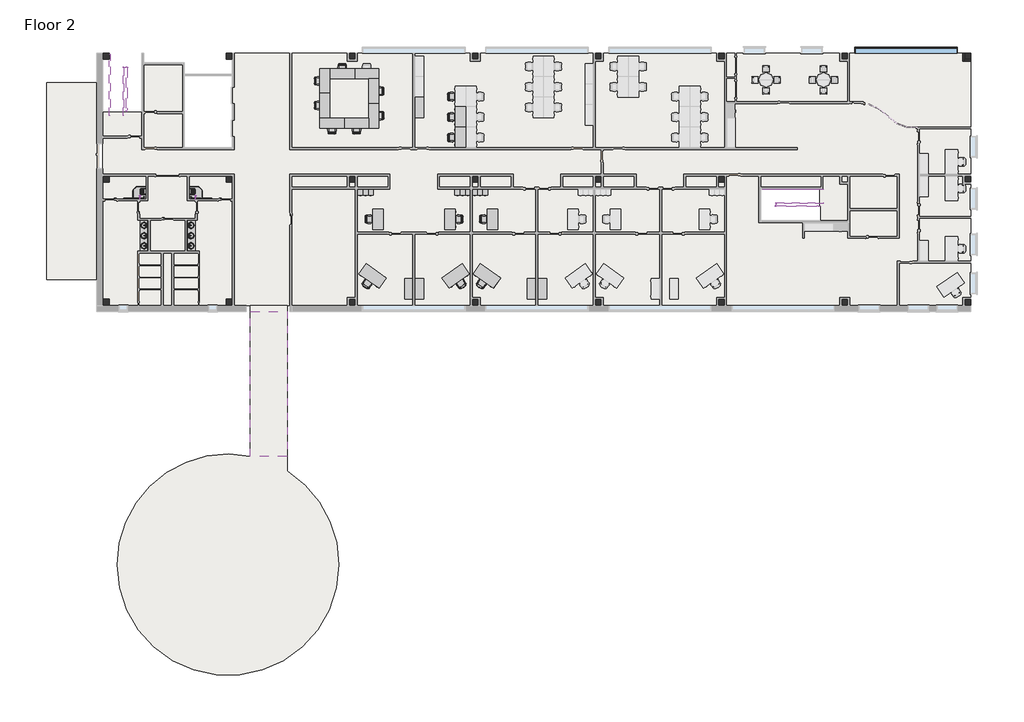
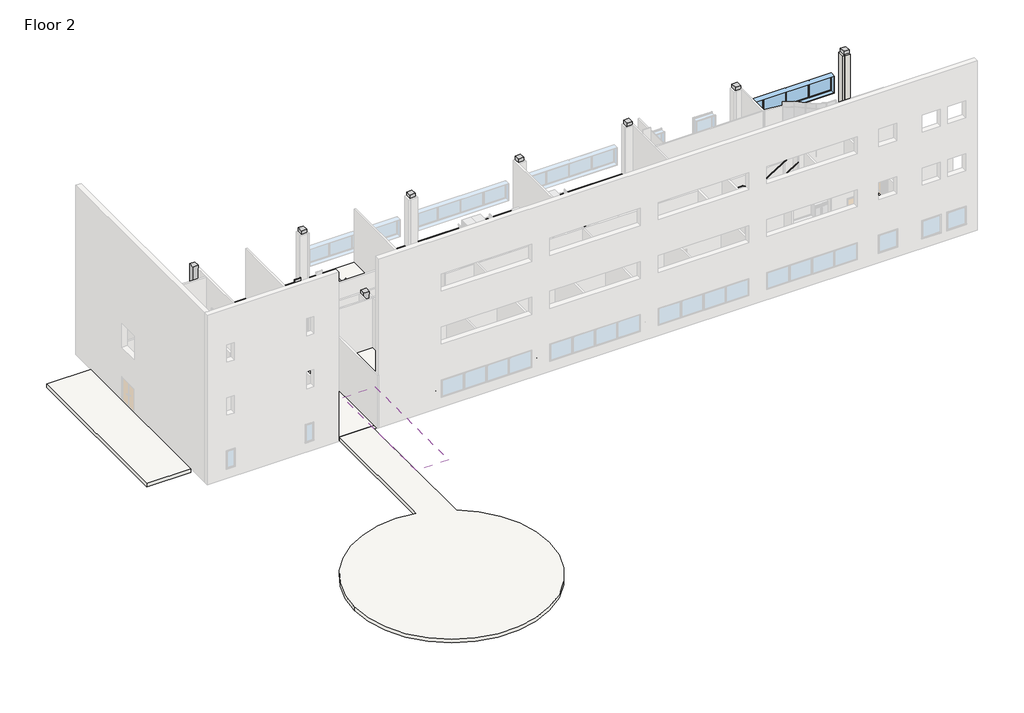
# One storey, part 5 of 6: 48 furniture elements, 23 columns, 16 flow terminals, 4 railings, 3 slabs, 2 walls, 1 covering, 1 window.
"""IFC4 building model written with IfcOpenShell, lengths in millimetres."""

from ifc_helpers import new_model, si_unit, point, frame, frame_2d, origin, place, context, project, spatial, polyline, circle_curve, trimmed, segment, composite_curve, outline, extrude, faceted_brep, transform, mapped, element, save
from components import column_f6efb254, grab_rail_horizontal_grab_bar_horizontal_3488bc9b, grab_rail_horizontal_grab_bar_horizontal_f73a8c0c, shower_head_shower_head_b2a460ee, shower_head_shower_head_3f4786c7, shower_seat_e35f25db, shower_seat_bb0cd458, shower_tray_2_floor_shower_tray_997da0d4, shower_tray_2_floor_shower_tray_7a1f724c, sink_vanity_round_basin_6ecf7a68, furniture_552c1472, furniture_48aa8ab9, chair_executive_chair_executive_8d69e98c, chair_executive_chair_executive_a5be4872, chair_task_arms_chair_task_arms_fa5a08ef, chair_task_arms_chair_task_arms_3c69ee15, furniture_0f0bb7e9, furniture_a9e97cbc, furniture_f1eb905c, furniture_e30ff25b, furniture_33f25304, furniture_65204735, plumbing_fixtures_counter_top_w_sinks_2400x600x850mm_820859b4, furniture_a5b052b6, stair_railing_1_d4a7e100, stair_railing_1_835fd4d1, stair_railing_1_a30edcdb, stair_railing_1_ea28da98, window_casement_multi_sash_horizontal_25_x_5ft_0e5d08e3

model = new_model("IFC4")

# Units and contexts
model_context = context("Model", 3, world=origin())
ifc_project = project(units=[si_unit("LENGTHUNIT", "METRE", prefix="MILLI")], contexts=[model_context])

# Site, building, storey
site = spatial("IfcSite", under=ifc_project)
building = spatial("IfcBuilding", under=site)
storey = spatial("IfcBuildingStorey", under=building, Name="Floor 2", Elevation=5486.4)

# Columns
placement = place(None, origin())
element("IfcColumn", 1, ObjectType="Rectangular Column1 : 18\" x 18\"", at=placement, inside=storey, context=model_context, shape_type="SweptSolid", body=[
    extrude(outline(polyline([(6637.3692024, 39077.111889), (6637.3692024, 38619.911889), (6180.1692024, 38619.911889), (6180.1692024, 39077.111889), (6637.3692024, 39077.111889)])), frame((0.0, 0.0, 5486.4), z_axis=(0.0, 0.0, 1.0), x_axis=(1.0, 0.0, 0.0)), (0.0, 0.0, 1.0), 4724.4),
])
element("IfcColumn", 2, ObjectType="Rectangular Column1 : 18\" x 18\"", at=placement, inside=storey, context=model_context, shape_type="Brep", body=[
    faceted_brep([(15781.3692024, 39077.111889, 10210.8), (15324.1692024, 39077.111889, 10210.8), (15324.1692024, 38619.911889, 10210.8), (15781.3692024, 38619.911889, 10210.8), (15781.3692024, 39077.111889, 5486.4), (15781.3692024, 38619.911889, 5486.4), (15324.1692024, 38619.911889, 5486.4), (15324.1692024, 39077.111889, 5486.4), (15781.3692024, 39077.111889, 9906.0), (15324.1692024, 39077.111889, 9906.0)], [[[0, 1, 2, 3]], [[4, 5, 6, 7]], [[1, 0, 8, 4, 7, 9]], [[2, 1, 9, 7, 6]], [[3, 2, 6, 5]], [[0, 3, 5, 4, 8]]]),
])
element("IfcColumn", 3, ObjectType="Rectangular Column1 : 18\" x 18\"", at=placement, inside=storey, context=model_context, shape_type="Brep", body=[
    faceted_brep([(24925.3692024, 39077.111889, 10210.8), (24468.1692024, 39077.111889, 10210.8), (24468.1692024, 38619.911889, 10210.8), (24925.3692024, 38619.911889, 10210.8), (24925.3692024, 39077.111889, 5486.4), (24925.3692024, 38619.911889, 5486.4), (24468.1692024, 38619.911889, 5486.4), (24468.1692024, 39077.111889, 5486.4), (24925.3692024, 39077.111889, 9906.0), (24468.1692024, 39077.111889, 9906.0)], [[[0, 1, 2, 3]], [[4, 5, 6, 7]], [[1, 0, 8, 4, 7, 9]], [[2, 1, 9, 7, 6]], [[3, 2, 6, 5]], [[0, 3, 5, 4, 8]]]),
])
element("IfcColumn", 4, ObjectType="Rectangular Column1 : 18\" x 18\"", at=placement, inside=storey, context=model_context, shape_type="Brep", body=[
    faceted_brep([(34069.3692024, 39077.111889, 10210.8), (33612.1692024, 39077.111889, 10210.8), (33612.1692024, 38619.911889, 10210.8), (34069.3692024, 38619.911889, 10210.8), (34069.3692024, 39077.111889, 5486.4), (34069.3692024, 38619.911889, 5486.4), (33612.1692024, 38619.911889, 5486.4), (33612.1692024, 39077.111889, 5486.4), (34069.3692024, 39077.111889, 9906.0), (33612.1692024, 39077.111889, 9906.0)], [[[0, 1, 2, 3]], [[4, 5, 6, 7]], [[1, 0, 8, 4, 7, 9]], [[2, 1, 9, 7, 6]], [[3, 2, 6, 5]], [[0, 3, 5, 4, 8]]]),
])
element("IfcColumn", 5, ObjectType="Rectangular Column1 : 18\" x 18\"", at=placement, inside=storey, context=model_context, shape_type="Brep", body=[
    faceted_brep([(43213.3692024, 39077.111889, 10210.8), (42756.1692024, 39077.111889, 10210.8), (42756.1692024, 38619.911889, 10210.8), (43213.3692024, 38619.911889, 10210.8), (43213.3692024, 39077.111889, 5486.4), (43213.3692024, 38619.911889, 5486.4), (42756.1692024, 38619.911889, 5486.4), (42756.1692024, 39077.111889, 5486.4), (43213.3692024, 39077.111889, 9906.0), (42756.1692024, 39077.111889, 9906.0)], [[[0, 1, 2, 3]], [[4, 5, 6, 7]], [[1, 0, 8, 4, 7, 9]], [[2, 1, 9, 7, 6]], [[3, 2, 6, 5]], [[0, 3, 5, 4, 8]]]),
])
element("IfcColumn", 6, ObjectType="Rectangular Column1 : 18\" x 18\"", at=placement, inside=storey, context=model_context, shape_type="Brep", body=[
    faceted_brep([(52357.3692024, 39077.111889, 10210.8), (51900.1692024, 39077.111889, 10210.8), (51900.1692024, 38619.911889, 10210.8), (52357.3692024, 38619.911889, 10210.8), (52357.3692024, 39077.111889, 5486.4), (52357.3692024, 38619.911889, 5486.4), (51900.1692024, 38619.911889, 5486.4), (51900.1692024, 39077.111889, 5486.4), (52357.3692024, 39077.111889, 9906.0), (51900.1692024, 39077.111889, 9906.0)], [[[0, 1, 2, 3]], [[4, 5, 6, 7]], [[1, 0, 8, 4, 7, 9]], [[2, 1, 9, 7, 6]], [[3, 2, 6, 5]], [[0, 3, 5, 4, 8]]]),
])
element("IfcColumn", 7, ObjectType="Rectangular Column1 : 18\" x 18\"", at=placement, inside=storey, context=model_context, shape_type="Brep", body=[
    faceted_brep([(61501.3692024, 39077.111889, 10210.8), (61044.1692024, 39077.111889, 10210.8), (61044.1692024, 38619.911889, 10210.8), (61501.3692024, 38619.911889, 10210.8), (61501.3692024, 39077.111889, 5486.4), (61501.3692024, 38619.911889, 5486.4), (61044.1692024, 38619.911889, 5486.4), (61044.1692024, 39077.111889, 5486.4), (61044.1692024, 39077.111889, 9906.0)], [[[0, 1, 2, 3]], [[4, 5, 6, 7]], [[1, 0, 4, 7, 8]], [[2, 1, 8, 7, 6]], [[3, 2, 6, 5]], [[0, 3, 5, 4]]]),
])
element("IfcColumn", 8, ObjectType="Rectangular Column1 : 18\" x 18\"", at=placement, inside=storey, context=model_context, shape_type="SweptSolid", body=[
    extrude(outline(polyline([(-2506.6307976, 48221.111889), (-2506.6307976, 47763.911889), (-2963.8307976, 47763.911889), (-2963.8307976, 48221.111889), (-2506.6307976, 48221.111889)])), frame((0.0, 0.0, 5486.4), z_axis=(0.0, 0.0, 1.0), x_axis=(1.0, 0.0, 0.0)), (0.0, 0.0, 1.0), 4724.4),
])
element("IfcColumn", 9, ObjectType="Rectangular Column1 : 18\" x 18\"", at=placement, inside=storey, context=model_context, shape_type="SweptSolid", body=[
    extrude(outline(polyline([(6637.3692024, 48221.111889), (6637.3692024, 47763.911889), (6180.1692024, 47763.911889), (6180.1692024, 48221.111889), (6637.3692024, 48221.111889)])), frame((0.0, 0.0, 5486.4), z_axis=(0.0, 0.0, 1.0), x_axis=(1.0, 0.0, 0.0)), (0.0, 0.0, 1.0), 4724.4),
])
element("IfcColumn", 10, ObjectType="Rectangular Column1 : 18\" x 18\"", at=placement, inside=storey, context=model_context, shape_type="Brep", body=[
    faceted_brep([(15781.3692024, 48221.111889, 10210.8), (15324.1692024, 48221.111889, 10210.8), (15324.1692024, 47763.911889, 10210.8), (15781.3692024, 47763.911889, 10210.8), (15781.3692024, 48221.111889, 5486.4), (15781.3692024, 47763.911889, 5486.4), (15324.1692024, 47763.911889, 5486.4), (15324.1692024, 48221.111889, 5486.4), (15781.3692024, 48221.111889, 9906.0), (15324.1692024, 48221.111889, 9906.0)], [[[0, 1, 2, 3]], [[4, 5, 6, 7]], [[1, 0, 8, 4, 7, 9]], [[2, 1, 9, 7, 6]], [[3, 2, 6, 5]], [[0, 3, 5, 4, 8]]]),
])
element("IfcColumn", 11, ObjectType="Rectangular Column1 : 18\" x 18\"", at=placement, inside=storey, context=model_context, shape_type="Brep", body=[
    faceted_brep([(24925.3692024, 48221.111889, 10210.8), (24468.1692024, 48221.111889, 10210.8), (24468.1692024, 47763.911889, 10210.8), (24925.3692024, 47763.911889, 10210.8), (24925.3692024, 48221.111889, 5486.4), (24925.3692024, 47763.911889, 5486.4), (24468.1692024, 47763.911889, 5486.4), (24468.1692024, 48221.111889, 5486.4), (24925.3692024, 48221.111889, 9906.0), (24468.1692024, 48221.111889, 9906.0)], [[[0, 1, 2, 3]], [[4, 5, 6, 7]], [[1, 0, 8, 4, 7, 9]], [[2, 1, 9, 7, 6]], [[3, 2, 6, 5]], [[0, 3, 5, 4, 8]]]),
])
element("IfcColumn", 12, ObjectType="Rectangular Column1 : 18\" x 18\"", at=placement, inside=storey, context=model_context, shape_type="Brep", body=[
    faceted_brep([(34069.3692024, 48221.111889, 10210.8), (33612.1692024, 48221.111889, 10210.8), (33612.1692024, 47763.911889, 10210.8), (34069.3692024, 47763.911889, 10210.8), (34069.3692024, 48221.111889, 5486.4), (34069.3692024, 47763.911889, 5486.4), (33612.1692024, 47763.911889, 5486.4), (33612.1692024, 48221.111889, 5486.4), (34069.3692024, 48221.111889, 9906.0), (33612.1692024, 48221.111889, 9906.0)], [[[0, 1, 2, 3]], [[4, 5, 6, 7]], [[1, 0, 8, 4, 7, 9]], [[2, 1, 9, 7, 6]], [[3, 2, 6, 5]], [[0, 3, 5, 4, 8]]]),
])
element("IfcColumn", 13, ObjectType="Rectangular Column1 : 18\" x 18\"", at=placement, inside=storey, context=model_context, shape_type="Brep", body=[
    faceted_brep([(43213.3692024, 48221.111889, 10210.8), (42756.1692024, 48221.111889, 10210.8), (42756.1692024, 47763.911889, 10210.8), (43213.3692024, 47763.911889, 10210.8), (43213.3692024, 48221.111889, 5486.4), (43213.3692024, 47763.911889, 5486.4), (42756.1692024, 47763.911889, 5486.4), (42756.1692024, 48221.111889, 5486.4), (43213.3692024, 48221.111889, 9906.0), (42756.1692024, 48221.111889, 9906.0)], [[[0, 1, 2, 3]], [[4, 5, 6, 7]], [[1, 0, 8, 4, 7, 9]], [[2, 1, 9, 7, 6]], [[3, 2, 6, 5]], [[0, 3, 5, 4, 8]]]),
])
element("IfcColumn", 14, ObjectType="Rectangular Column1 : 18\" x 18\"", at=placement, inside=storey, context=model_context, shape_type="Brep", body=[
    faceted_brep([(61501.3692024, 48221.111889, 10210.8), (61044.1692024, 48221.111889, 10210.8), (61044.1692024, 47763.911889, 10210.8), (61501.3692024, 47763.911889, 10210.8), (61501.3692024, 48221.111889, 5486.4), (61501.3692024, 47763.911889, 5486.4), (61044.1692024, 47763.911889, 5486.4), (61044.1692024, 48221.111889, 5486.4), (61044.1692024, 48221.111889, 9906.0), (61044.1692024, 47763.911889, 9906.0)], [[[0, 1, 2, 3]], [[4, 5, 6, 7]], [[1, 0, 4, 7, 8]], [[2, 1, 8, 7, 6, 9]], [[3, 2, 9, 6, 5]], [[0, 3, 5, 4]]]),
])
element("IfcColumn", 15, ObjectType="Rectangular Column1 : 18\" x 18\"", at=placement, inside=storey, context=model_context, shape_type="SweptSolid", body=[
    extrude(outline(polyline([(6637.3692024, 57365.111889), (6637.3692024, 56907.911889), (6180.1692024, 56907.911889), (6180.1692024, 57365.111889), (6637.3692024, 57365.111889)])), frame((0.0, 0.0, 5486.4), z_axis=(0.0, 0.0, 1.0), x_axis=(1.0, 0.0, 0.0)), (0.0, 0.0, 1.0), 4724.4),
])
element("IfcColumn", 16, ObjectType="Rectangular Column1 : 18\" x 18\"", at=placement, inside=storey, context=model_context, shape_type="Brep", body=[
    faceted_brep([(15781.3692024, 57365.111889, 10210.8), (15324.1692024, 57365.111889, 10210.8), (15324.1692024, 56907.911889, 10210.8), (15781.3692024, 56907.911889, 10210.8), (15781.3692024, 57365.111889, 5486.4), (15781.3692024, 56907.911889, 5486.4), (15324.1692024, 56907.911889, 5486.4), (15324.1692024, 57365.111889, 5486.4), (15324.1692024, 56907.911889, 9906.0), (15781.3692024, 56907.911889, 9906.0)], [[[0, 1, 2, 3]], [[4, 5, 6, 7]], [[1, 0, 4, 7]], [[2, 1, 7, 6, 8]], [[3, 2, 8, 6, 5, 9]], [[0, 3, 9, 5, 4]]]),
])
element("IfcColumn", 17, ObjectType="Rectangular Column1 : 18\" x 18\"", at=placement, inside=storey, context=model_context, shape_type="Brep", body=[
    faceted_brep([(24925.3692024, 57365.111889, 10210.8), (24468.1692024, 57365.111889, 10210.8), (24468.1692024, 56907.911889, 10210.8), (24925.3692024, 56907.911889, 10210.8), (24925.3692024, 57365.111889, 5486.4), (24925.3692024, 56907.911889, 5486.4), (24468.1692024, 56907.911889, 5486.4), (24468.1692024, 57365.111889, 5486.4), (24468.1692024, 56907.911889, 9906.0), (24925.3692024, 56907.911889, 9906.0)], [[[0, 1, 2, 3]], [[4, 5, 6, 7]], [[1, 0, 4, 7]], [[2, 1, 7, 6, 8]], [[3, 2, 8, 6, 5, 9]], [[0, 3, 9, 5, 4]]]),
])
element("IfcColumn", 18, ObjectType="Rectangular Column1 : 18\" x 18\"", at=placement, inside=storey, context=model_context, shape_type="Brep", body=[
    faceted_brep([(34069.3692024, 57365.111889, 10210.8), (33612.1692024, 57365.111889, 10210.8), (33612.1692024, 56907.911889, 10210.8), (34069.3692024, 56907.911889, 10210.8), (34069.3692024, 57365.111889, 5486.4), (34069.3692024, 56907.911889, 5486.4), (33612.1692024, 56907.911889, 5486.4), (33612.1692024, 57365.111889, 5486.4), (33612.1692024, 56907.911889, 9906.0), (34069.3692024, 56907.911889, 9906.0)], [[[0, 1, 2, 3]], [[4, 5, 6, 7]], [[1, 0, 4, 7]], [[2, 1, 7, 6, 8]], [[3, 2, 8, 6, 5, 9]], [[0, 3, 9, 5, 4]]]),
])
element("IfcColumn", 19, ObjectType="Rectangular Column1 : 18\" x 18\"", at=placement, inside=storey, context=model_context, shape_type="Brep", body=[
    faceted_brep([(43213.3692024, 57365.111889, 10210.8), (42756.1692024, 57365.111889, 10210.8), (42756.1692024, 56907.911889, 10210.8), (43213.3692024, 56907.911889, 10210.8), (43213.3692024, 57365.111889, 5486.4), (43213.3692024, 56907.911889, 5486.4), (42756.1692024, 56907.911889, 5486.4), (42756.1692024, 57365.111889, 5486.4), (42756.1692024, 56907.911889, 9906.0), (43213.3692024, 56907.911889, 9906.0)], [[[0, 1, 2, 3]], [[4, 5, 6, 7]], [[1, 0, 4, 7]], [[2, 1, 7, 6, 8]], [[3, 2, 8, 6, 5, 9]], [[0, 3, 9, 5, 4]]]),
])
element("IfcColumn", 20, ObjectType="Rectangular Column1 : 18\" x 18\"", at=placement, inside=storey, context=model_context, shape_type="Brep", body=[
    faceted_brep([(52357.3692024, 57365.111889, 10210.8), (51900.1692024, 57365.111889, 10210.8), (51900.1692024, 56907.911889, 10210.8), (52357.3692024, 56907.911889, 10210.8), (52357.3692024, 57365.111889, 5486.4), (52357.3692024, 56907.911889, 5486.4), (51900.1692024, 56907.911889, 5486.4), (51900.1692024, 57365.111889, 5486.4), (51900.1692024, 56907.911889, 9906.0)], [[[0, 1, 2, 3]], [[4, 5, 6, 7]], [[1, 0, 4, 7]], [[2, 1, 7, 6, 8]], [[3, 2, 8, 6, 5]], [[0, 3, 5, 4]]]),
])
element("IfcColumn", 21, ObjectType="Rectangular Column1 : 18\" x 18\"", at=placement, inside=storey, context=model_context, shape_type="Brep", body=[
    faceted_brep([(61501.3692024, 57365.111889, 10210.8), (61044.1692024, 57365.111889, 10210.8), (61044.1692024, 56907.911889, 10210.8), (61501.3692024, 56907.911889, 10210.8), (61501.3692024, 57365.111889, 5486.4), (61501.3692024, 56907.911889, 5486.4), (61044.1692024, 56907.911889, 5486.4), (61044.1692024, 57365.111889, 5486.4), (61044.1692024, 56907.911889, 9906.0)], [[[0, 1, 2, 3]], [[4, 5, 6, 7]], [[1, 0, 4, 7]], [[2, 1, 7, 6, 8]], [[3, 2, 8, 6, 5]], [[0, 3, 5, 4]]]),
])
column_shape = column_f6efb254(model_context)
element("IfcColumn", 22, ObjectType="Rectangular Column1 : 18\" x 18\"", at=placement, inside=storey, context=model_context, shape_type="MappedRepresentation", body=[
    mapped(column_shape, transform((-2735.2307976, 38848.511889, 0.0), x_axis=(1.0, 0.0, 0.0), y_axis=(0.0, 1.0, 0.0), z_axis=(0.0, 0.0, 1.0))),
])
element("IfcColumn", 23, ObjectType="Rectangular Column1 : 18\" x 18\"", at=placement, inside=storey, context=model_context, shape_type="MappedRepresentation", body=[
    mapped(column_shape, transform((-2735.2307976, 57136.511889, 0.0), x_axis=(1.0, 0.0, 0.0), y_axis=(0.0, 1.0, 0.0), z_axis=(0.0, 0.0, 1.0))),
])

# Covering
element("IfcCovering", 24, ObjectType="2' x 2' ACT System", at=placement, inside=storey, context=model_context, shape_type="SweptSolid", body=[
    extrude(outline(polyline([(7986.4026119, 38164.299389), (10723.2526119, 38164.299389), (10723.2526119, 27403.0208402), (7986.4026119, 27403.0208402), (7986.4026119, 38164.299389)])), frame((0.0, 0.0, 9296.4), z_axis=(0.0, 0.0, 1.0), x_axis=(1.0, 0.0, 0.0)), (0.0, 0.0, 1.0), 57.15),
])

# Flow terminals
grab_rail_horizontal_grab_bar_horizontal_shape = grab_rail_horizontal_grab_bar_horizontal_3488bc9b(model_context)
element("IfcFlowTerminal", 25, ObjectType="Grab Rail - Horizontal : Grab Bar Horizontal", at=placement, inside=storey, context=model_context, shape_type="MappedRepresentation", body=[
    mapped(grab_rail_horizontal_grab_bar_horizontal_shape, transform((3129.9735359, 46520.961889, 5486.4), x_axis=(-1.0, 0.0, 0.0), y_axis=(0.0, -1.0, 0.0), z_axis=(0.0, 0.0, 1.0))),
])
element("IfcFlowTerminal", 26, ObjectType="Grab Rail - Horizontal : Grab Bar Horizontal", at=placement, inside=storey, context=model_context, shape_type="MappedRepresentation", body=[
    mapped(grab_rail_horizontal_grab_bar_horizontal_shape, transform((3939.9735359, 46520.961889, 5486.4), x_axis=(-1.0, 0.0, 0.0), y_axis=(0.0, -1.0, 0.0), z_axis=(0.0, 0.0, 1.0))),
])
grab_rail_horizontal_grab_bar_horizontal_2_shape = grab_rail_horizontal_grab_bar_horizontal_f73a8c0c(model_context)
element("IfcFlowTerminal", 27, ObjectType="Grab Rail - Horizontal : Grab Bar Horizontal", at=placement, inside=storey, context=model_context, shape_type="MappedRepresentation", body=[
    mapped(grab_rail_horizontal_grab_bar_horizontal_2_shape, transform((543.5648689, 46520.961889, 5486.4), x_axis=(1.0, 0.0, 0.0), y_axis=(0.0, 1.0, 0.0), z_axis=(0.0, 0.0, 1.0))),
])
element("IfcFlowTerminal", 28, ObjectType="Grab Rail - Horizontal : Grab Bar Horizontal", at=placement, inside=storey, context=model_context, shape_type="MappedRepresentation", body=[
    mapped(grab_rail_horizontal_grab_bar_horizontal_2_shape, transform((-266.4351311, 46520.961889, 5486.4), x_axis=(1.0, 0.0, 0.0), y_axis=(0.0, 1.0, 0.0), z_axis=(0.0, 0.0, 1.0))),
])
shower_head_shower_head_shape = shower_head_shower_head_b2a460ee(model_context)
element("IfcFlowTerminal", 29, ObjectType="Shower Head : Shower Head", at=placement, inside=storey, context=model_context, shape_type="MappedRepresentation", body=[
    mapped(shower_head_shower_head_shape, transform((-227.2307976, 46520.961889, 5486.4), x_axis=(1.0, 0.0, 0.0), y_axis=(0.0, 1.0, 0.0), z_axis=(0.0, 0.0, 1.0))),
])
shower_head_shower_head_2_shape = shower_head_shower_head_3f4786c7(model_context)
element("IfcFlowTerminal", 30, ObjectType="Shower Head : Shower Head", at=placement, inside=storey, context=model_context, shape_type="MappedRepresentation", body=[
    mapped(shower_head_shower_head_2_shape, transform((3900.7692024, 46520.961889, 5486.4), x_axis=(-1.0, 0.0, 0.0), y_axis=(0.0, -1.0, 0.0), z_axis=(0.0, 0.0, 1.0))),
])
shower_seat_shape = shower_seat_e35f25db(model_context)
element("IfcFlowTerminal", 31, ObjectType="Shower - Disabled  Seat : Shower Seat", at=placement, inside=storey, context=model_context, shape_type="MappedRepresentation", body=[
    mapped(shower_seat_shape, transform((242.9192024, 47086.6956616, 5486.4), x_axis=(0.0, 1.0, 0.0), y_axis=(-1.0, 0.0, 0.0), z_axis=(0.0, 0.0, 1.0))),
])
shower_seat_2_shape = shower_seat_bb0cd458(model_context)
element("IfcFlowTerminal", 32, ObjectType="Shower - Disabled  Seat : Shower Seat", at=placement, inside=storey, context=model_context, shape_type="MappedRepresentation", body=[
    mapped(shower_seat_2_shape, transform((3430.6192024, 47086.6956616, 5486.4), x_axis=(0.0, 1.0, 0.0), y_axis=(-1.0, 0.0, 0.0), z_axis=(0.0, 0.0, 1.0))),
])
shower_tray_2_floor_shower_tray_shape = shower_tray_2_floor_shower_tray_997da0d4(model_context)
element("IfcFlowTerminal", 33, ObjectType="Shower Tray (2) : Floor Shower Tray", at=placement, inside=storey, context=model_context, shape_type="MappedRepresentation", body=[
    mapped(shower_tray_2_floor_shower_tray_shape, transform((3430.6192024, 46520.961889, 5486.4), x_axis=(0.0, -1.0, 0.0), y_axis=(1.0, 0.0, 0.0), z_axis=(0.0, 0.0, 1.0))),
])
shower_tray_2_floor_shower_tray_2_shape = shower_tray_2_floor_shower_tray_7a1f724c(model_context)
element("IfcFlowTerminal", 34, ObjectType="Shower Tray (2) : Floor Shower Tray", at=placement, inside=storey, context=model_context, shape_type="MappedRepresentation", body=[
    mapped(shower_tray_2_floor_shower_tray_2_shape, transform((242.9192024, 46520.961889, 5486.4), x_axis=(0.0, -1.0, 0.0), y_axis=(1.0, 0.0, 0.0), z_axis=(0.0, 0.0, 1.0))),
])
sink_vanity_round_basin_shape = sink_vanity_round_basin_6ecf7a68(model_context)
element("IfcFlowTerminal", 35, ObjectType="Sink - Vanity - Round : Basin", at=placement, inside=storey, context=model_context, shape_type="MappedRepresentation", body=[
    mapped(sink_vanity_round_basin_shape, transform((10.1514839, 43898.1636296, 5562.2), x_axis=(0.0, -1.0, 0.0), y_axis=(1.0, 0.0, 0.0), z_axis=(0.0, 0.0, 1.0))),
])
element("IfcFlowTerminal", 36, ObjectType="Sink - Vanity - Round : Basin", at=placement, inside=storey, context=model_context, shape_type="MappedRepresentation", body=[
    mapped(sink_vanity_round_basin_shape, transform((10.1514839, 44660.1636296, 5562.6), x_axis=(0.0, -1.0, 0.0), y_axis=(1.0, 0.0, 0.0), z_axis=(0.0, 0.0, 1.0))),
])
element("IfcFlowTerminal", 37, ObjectType="Sink - Vanity - Round : Basin", at=placement, inside=storey, context=model_context, shape_type="MappedRepresentation", body=[
    mapped(sink_vanity_round_basin_shape, transform((10.1514839, 43136.1636296, 5561.8), x_axis=(0.0, -1.0, 0.0), y_axis=(1.0, 0.0, 0.0), z_axis=(0.0, 0.0, 1.0))),
])
element("IfcFlowTerminal", 38, ObjectType="Sink - Vanity - Round : Basin", at=placement, inside=storey, context=model_context, shape_type="MappedRepresentation", body=[
    mapped(sink_vanity_round_basin_shape, transform((3663.3869209, 43704.8601484, 5562.2), x_axis=(0.0, 1.0, 0.0), y_axis=(-1.0, 0.0, 0.0), z_axis=(0.0, 0.0, 1.0))),
])
element("IfcFlowTerminal", 39, ObjectType="Sink - Vanity - Round : Basin", at=placement, inside=storey, context=model_context, shape_type="MappedRepresentation", body=[
    mapped(sink_vanity_round_basin_shape, transform((3663.3869209, 42942.8601484, 5562.6), x_axis=(0.0, 1.0, 0.0), y_axis=(-1.0, 0.0, 0.0), z_axis=(0.0, 0.0, 1.0))),
])
element("IfcFlowTerminal", 40, ObjectType="Sink - Vanity - Round : Basin", at=placement, inside=storey, context=model_context, shape_type="MappedRepresentation", body=[
    mapped(sink_vanity_round_basin_shape, transform((3663.3869209, 44466.8601484, 5561.8), x_axis=(0.0, 1.0, 0.0), y_axis=(-1.0, 0.0, 0.0), z_axis=(0.0, 0.0, 1.0))),
])

# Furniture
furniture_shape = furniture_552c1472(model_context)
element("IfcFurniture", 41, ObjectType="Cabinet-File 3 Drawer : 15\" x 18\"", at=placement, inside=storey, context=model_context, shape_type="MappedRepresentation", body=[
    mapped(furniture_shape, transform((24786.5656494, 47175.7961891, 5486.4), x_axis=(1.0, 0.0, 0.0), y_axis=(0.0, 1.0, 0.0), z_axis=(0.0, 0.0, 1.0))),
])
element("IfcFurniture", 42, ObjectType="Cabinet-File 3 Drawer : 15\" x 18\"", at=placement, inside=storey, context=model_context, shape_type="MappedRepresentation", body=[
    mapped(furniture_shape, transform((25167.5656494, 47175.7961891, 5486.4), x_axis=(1.0, 0.0, 0.0), y_axis=(0.0, 1.0, 0.0), z_axis=(0.0, 0.0, 1.0))),
])
element("IfcFurniture", 43, ObjectType="Cabinet-File 3 Drawer : 15\" x 18\"", at=placement, inside=storey, context=model_context, shape_type="MappedRepresentation", body=[
    mapped(furniture_shape, transform((25548.5656494, 47175.7961891, 5486.4), x_axis=(1.0, 0.0, 0.0), y_axis=(0.0, 1.0, 0.0), z_axis=(0.0, 0.0, 1.0))),
])
element("IfcFurniture", 44, ObjectType="Cabinet-File 3 Drawer : 15\" x 18\"", at=placement, inside=storey, context=model_context, shape_type="MappedRepresentation", body=[
    mapped(furniture_shape, transform((16290.2656494, 47175.7961891, 5486.4), x_axis=(1.0, 0.0, 0.0), y_axis=(0.0, 1.0, 0.0), z_axis=(0.0, 0.0, 1.0))),
])
element("IfcFurniture", 45, ObjectType="Cabinet-File 3 Drawer : 15\" x 18\"", at=placement, inside=storey, context=model_context, shape_type="MappedRepresentation", body=[
    mapped(furniture_shape, transform((16671.2656494, 47175.7961891, 5486.4), x_axis=(1.0, 0.0, 0.0), y_axis=(0.0, 1.0, 0.0), z_axis=(0.0, 0.0, 1.0))),
])
element("IfcFurniture", 46, ObjectType="Cabinet-File 3 Drawer : 15\" x 18\"", at=placement, inside=storey, context=model_context, shape_type="MappedRepresentation", body=[
    mapped(furniture_shape, transform((17052.2656494, 47175.7961891, 5486.4), x_axis=(1.0, 0.0, 0.0), y_axis=(0.0, 1.0, 0.0), z_axis=(0.0, 0.0, 1.0))),
])
furniture_2_shape = furniture_48aa8ab9(model_context)
element("IfcFurniture", 47, ObjectType="Cabinet-File 3 Drawer : 15\" x 18\"", at=placement, inside=storey, context=model_context, shape_type="MappedRepresentation", body=[
    mapped(furniture_2_shape, transform((24010.0727553, 47175.7961891, 5486.4), x_axis=(-1.0, 0.0, 0.0), y_axis=(0.0, -1.0, 0.0), z_axis=(0.0, 0.0, 1.0))),
])
element("IfcFurniture", 48, ObjectType="Cabinet-File 3 Drawer : 15\" x 18\"", at=placement, inside=storey, context=model_context, shape_type="MappedRepresentation", body=[
    mapped(furniture_2_shape, transform((23629.0727553, 47175.7961891, 5486.4), x_axis=(-1.0, 0.0, 0.0), y_axis=(0.0, -1.0, 0.0), z_axis=(0.0, 0.0, 1.0))),
])
element("IfcFurniture", 49, ObjectType="Cabinet-File 3 Drawer : 15\" x 18\"", at=placement, inside=storey, context=model_context, shape_type="MappedRepresentation", body=[
    mapped(furniture_2_shape, transform((23248.0727553, 47175.7961891, 5486.4), x_axis=(-1.0, 0.0, 0.0), y_axis=(0.0, -1.0, 0.0), z_axis=(0.0, 0.0, 1.0))),
])
chair_executive_chair_executive_shape = chair_executive_chair_executive_8d69e98c(model_context)
element("IfcFurniture", 50, ObjectType="Chair-Executive : Chair-Executive", at=placement, inside=storey, context=model_context, shape_type="MappedRepresentation", body=[
    mapped(chair_executive_chair_executive_shape, transform((25045.995015, 40313.6122918, 5486.4), x_axis=(0.819152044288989, -0.57357643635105, 0.0), y_axis=(0.57357643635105, 0.819152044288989, 0.0), z_axis=(0.0, 0.0, 1.0))),
])
element("IfcFurniture", 51, ObjectType="Chair-Executive : Chair-Executive", at=placement, inside=storey, context=model_context, shape_type="MappedRepresentation", body=[
    mapped(chair_executive_chair_executive_shape, transform((16549.695015, 40313.6122918, 5486.4), x_axis=(0.819152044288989, -0.57357643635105, 0.0), y_axis=(0.57357643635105, 0.819152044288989, 0.0), z_axis=(0.0, 0.0, 1.0))),
])
chair_executive_chair_executive_2_shape = chair_executive_chair_executive_a5be4872(model_context)
element("IfcFurniture", 52, ObjectType="Chair-Executive : Chair-Executive", at=placement, inside=storey, context=model_context, shape_type="MappedRepresentation", body=[
    mapped(chair_executive_chair_executive_2_shape, transform((23750.6433897, 40313.6122918, 5486.4), x_axis=(-0.819152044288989, -0.57357643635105, 0.0), y_axis=(0.57357643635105, -0.819152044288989, 0.0), z_axis=(0.0, 0.0, 1.0))),
])
chair_task_arms_chair_task_arms_shape = chair_task_arms_chair_task_arms_fa5a08ef(model_context)
element("IfcFurniture", 53, ObjectType="Chair-Task Arms : Chair-Task Arms", at=placement, inside=storey, context=model_context, shape_type="MappedRepresentation", body=[
    mapped(chair_task_arms_chair_task_arms_shape, transform((25281.0733007, 45161.7027087, 5486.4), x_axis=(0.0, -1.0, 0.0), y_axis=(1.0, 0.0, 0.0), z_axis=(0.0, 0.0, 1.0))),
])
element("IfcFurniture", 54, ObjectType="Chair-Task Arms : Chair-Task Arms", at=placement, inside=storey, context=model_context, shape_type="MappedRepresentation", body=[
    mapped(chair_task_arms_chair_task_arms_shape, transform((16784.7733007, 45161.7027087, 5486.4), x_axis=(0.0, -1.0, 0.0), y_axis=(1.0, 0.0, 0.0), z_axis=(0.0, 0.0, 1.0))),
])
element("IfcFurniture", 55, ObjectType="Chair-Task Arms : Chair-Task Arms", at=placement, inside=storey, context=model_context, shape_type="MappedRepresentation", body=[
    mapped(chair_task_arms_chair_task_arms_shape, transform((13905.8188499, 51632.7534874, 5486.4), x_axis=(1.0, 0.0, 0.0), y_axis=(0.0, 1.0, 0.0), z_axis=(0.0, 0.0, 1.0))),
])
element("IfcFurniture", 56, ObjectType="Chair-Task Arms : Chair-Task Arms", at=placement, inside=storey, context=model_context, shape_type="MappedRepresentation", body=[
    mapped(chair_task_arms_chair_task_arms_shape, transform((15734.6188499, 51632.7534874, 5486.4), x_axis=(1.0, 0.0, 0.0), y_axis=(0.0, 1.0, 0.0), z_axis=(0.0, 0.0, 1.0))),
])
element("IfcFurniture", 57, ObjectType="Chair-Task Arms : Chair-Task Arms", at=placement, inside=storey, context=model_context, shape_type="MappedRepresentation", body=[
    mapped(chair_task_arms_chair_task_arms_shape, transform((17641.815104, 52572.8924709, 5486.4), x_axis=(0.0, 1.0, 0.0), y_axis=(-1.0, 0.0, 0.0), z_axis=(0.0, 0.0, 1.0))),
])
element("IfcFurniture", 58, ObjectType="Chair-Task Arms : Chair-Task Arms", at=placement, inside=storey, context=model_context, shape_type="MappedRepresentation", body=[
    mapped(chair_task_arms_chair_task_arms_shape, transform((17641.815104, 54401.6924709, 5486.4), x_axis=(0.0, 1.0, 0.0), y_axis=(-1.0, 0.0, 0.0), z_axis=(0.0, 0.0, 1.0))),
])
element("IfcFurniture", 59, ObjectType="Chair-Task Arms : Chair-Task Arms", at=placement, inside=storey, context=model_context, shape_type="MappedRepresentation", body=[
    mapped(chair_task_arms_chair_task_arms_shape, transform((14949.8004892, 56317.2577906, 5486.4), x_axis=(-1.0, 0.0, 0.0), y_axis=(0.0, -1.0, 0.0), z_axis=(0.0, 0.0, 1.0))),
])
element("IfcFurniture", 60, ObjectType="Chair-Task Arms : Chair-Task Arms", at=placement, inside=storey, context=model_context, shape_type="MappedRepresentation", body=[
    mapped(chair_task_arms_chair_task_arms_shape, transform((13006.5233007, 55445.6741102, 5486.4), x_axis=(0.0, -1.0, 0.0), y_axis=(1.0, 0.0, 0.0), z_axis=(0.0, 0.0, 1.0))),
])
element("IfcFurniture", 61, ObjectType="Chair-Task Arms : Chair-Task Arms", at=placement, inside=storey, context=model_context, shape_type="MappedRepresentation", body=[
    mapped(chair_task_arms_chair_task_arms_shape, transform((13006.5233007, 53616.8741102, 5486.4), x_axis=(0.0, -1.0, 0.0), y_axis=(1.0, 0.0, 0.0), z_axis=(0.0, 0.0, 1.0))),
])
chair_task_arms_chair_task_arms_2_shape = chair_task_arms_chair_task_arms_3c69ee15(model_context)
element("IfcFurniture", 62, ObjectType="Chair-Task Arms : Chair-Task Arms", at=placement, inside=storey, context=model_context, shape_type="MappedRepresentation", body=[
    mapped(chair_task_arms_chair_task_arms_2_shape, transform((23515.565104, 45161.7027087, 5486.4), x_axis=(0.0, -1.0, 0.0), y_axis=(1.0, 0.0, 0.0), z_axis=(0.0, 0.0, 1.0))),
])
element("IfcFurniture", 63, ObjectType="Chair-Task Arms : Chair-Task Arms", at=placement, inside=storey, context=model_context, shape_type="MappedRepresentation", body=[
    mapped(chair_task_arms_chair_task_arms_2_shape, transform((22899.8233007, 50950.3210693, 5486.4), x_axis=(0.0, 1.0, 0.0), y_axis=(-1.0, 0.0, 0.0), z_axis=(0.0, 0.0, 1.0))),
])
element("IfcFurniture", 64, ObjectType="Chair-Task Arms : Chair-Task Arms", at=placement, inside=storey, context=model_context, shape_type="MappedRepresentation", body=[
    mapped(chair_task_arms_chair_task_arms_2_shape, transform((22899.8233007, 52474.3210693, 5486.4), x_axis=(0.0, 1.0, 0.0), y_axis=(-1.0, 0.0, 0.0), z_axis=(0.0, 0.0, 1.0))),
])
element("IfcFurniture", 65, ObjectType="Chair-Task Arms : Chair-Task Arms", at=placement, inside=storey, context=model_context, shape_type="MappedRepresentation", body=[
    mapped(chair_task_arms_chair_task_arms_2_shape, transform((22899.8233007, 53998.3210693, 5486.4), x_axis=(0.0, 1.0, 0.0), y_axis=(-1.0, 0.0, 0.0), z_axis=(0.0, 0.0, 1.0))),
])
furniture_3_shape = furniture_0f0bb7e9(model_context)
element("IfcFurniture", 66, ObjectType="Credenza : 60\" x 24\"", at=placement, inside=storey, context=model_context, shape_type="MappedRepresentation", body=[
    mapped(furniture_3_shape, transform((29686.0995302, 39804.9676267, 5486.4), x_axis=(0.0, 1.0, 0.0), y_axis=(-1.0, 0.0, 0.0), z_axis=(0.0, 0.0, 1.0))),
])
element("IfcFurniture", 67, ObjectType="Credenza : 60\" x 24\"", at=placement, inside=storey, context=model_context, shape_type="MappedRepresentation", body=[
    mapped(furniture_3_shape, transform((20542.0995302, 39804.9676267, 5486.4), x_axis=(0.0, 1.0, 0.0), y_axis=(-1.0, 0.0, 0.0), z_axis=(0.0, 0.0, 1.0))),
])
furniture_4_shape = furniture_a9e97cbc(model_context)
element("IfcFurniture", 68, ObjectType="Credenza : 60\" x 24\"", at=placement, inside=storey, context=model_context, shape_type="MappedRepresentation", body=[
    mapped(furniture_4_shape, transform((28889.5388745, 39804.9676267, 5486.4), x_axis=(0.0, 1.0, 0.0), y_axis=(-1.0, 0.0, 0.0), z_axis=(0.0, 0.0, 1.0))),
])
element("IfcFurniture", 69, ObjectType="Credenza : 60\" x 24\"", at=placement, inside=storey, context=model_context, shape_type="MappedRepresentation", body=[
    mapped(furniture_4_shape, transform((19783.6388745, 39804.9676267, 5486.4), x_axis=(0.0, 1.0, 0.0), y_axis=(-1.0, 0.0, 0.0), z_axis=(0.0, 0.0, 1.0))),
])
element("IfcFurniture", 70, ObjectType="Credenza : 60\" x 24\"", at=placement, inside=storey, context=model_context, shape_type="MappedRepresentation", body=[
    mapped(furniture_4_shape, transform((20542.0995302, 53386.0561513, 5486.4), x_axis=(0.0, -1.0, 0.0), y_axis=(1.0, 0.0, 0.0), z_axis=(0.0, 0.0, 1.0))),
])
furniture_5_shape = furniture_f1eb905c(model_context)
element("IfcFurniture", 71, ObjectType="Desk : 60\" x 30\"", at=placement, inside=storey, context=model_context, shape_type="MappedRepresentation", body=[
    mapped(furniture_5_shape, transform((25604.8192024, 45782.711889, 5486.4), x_axis=(0.0, -1.0, 0.0), y_axis=(1.0, 0.0, 0.0), z_axis=(0.0, 0.0, 1.0))),
])
element("IfcFurniture", 72, ObjectType="Desk : 60\" x 30\"", at=placement, inside=storey, context=model_context, shape_type="MappedRepresentation", body=[
    mapped(furniture_5_shape, transform((17108.5192024, 45782.711889, 5486.4), x_axis=(0.0, -1.0, 0.0), y_axis=(1.0, 0.0, 0.0), z_axis=(0.0, 0.0, 1.0))),
])
furniture_6_shape = furniture_e30ff25b(model_context)
element("IfcFurniture", 73, ObjectType="Desk : 60\" x 30\"", at=placement, inside=storey, context=model_context, shape_type="MappedRepresentation", body=[
    mapped(furniture_6_shape, transform((23191.8192024, 45782.711889, 5486.4), x_axis=(0.0, -1.0, 0.0), y_axis=(1.0, 0.0, 0.0), z_axis=(0.0, 0.0, 1.0))),
])
element("IfcFurniture", 74, ObjectType="Desk : 60\" x 30\"", at=placement, inside=storey, context=model_context, shape_type="MappedRepresentation", body=[
    mapped(furniture_6_shape, transform((23223.5692024, 50329.311889, 5486.4), x_axis=(0.0, 1.0, 0.0), y_axis=(-1.0, 0.0, 0.0), z_axis=(0.0, 0.0, 1.0))),
])
element("IfcFurniture", 75, ObjectType="Desk : 60\" x 30\"", at=placement, inside=storey, context=model_context, shape_type="MappedRepresentation", body=[
    mapped(furniture_6_shape, transform((23223.5692024, 51853.311889, 5486.4), x_axis=(0.0, 1.0, 0.0), y_axis=(-1.0, 0.0, 0.0), z_axis=(0.0, 0.0, 1.0))),
])
furniture_7_shape = furniture_33f25304(model_context)
element("IfcFurniture", 76, ObjectType="Desk : 72\" x 36\"", at=placement, inside=storey, context=model_context, shape_type="MappedRepresentation", body=[
    mapped(furniture_7_shape, transform((24722.9870959, 40935.0056416, 5486.4), x_axis=(0.8191520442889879, -0.5735764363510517, 0.0), y_axis=(0.5735764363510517, 0.8191520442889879, 0.0), z_axis=(0.0, 0.0, 1.0))),
])
element("IfcFurniture", 77, ObjectType="Desk : 72\" x 36\"", at=placement, inside=storey, context=model_context, shape_type="MappedRepresentation", body=[
    mapped(furniture_7_shape, transform((16226.6870959, 40935.0056416, 5486.4), x_axis=(0.8191520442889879, -0.5735764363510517, 0.0), y_axis=(0.5735764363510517, 0.8191520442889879, 0.0), z_axis=(0.0, 0.0, 1.0))),
])
furniture_8_shape = furniture_65204735(model_context)
element("IfcFurniture", 78, ObjectType="Desk : 72\" x 36\"", at=placement, inside=storey, context=model_context, shape_type="MappedRepresentation", body=[
    mapped(furniture_8_shape, transform((24073.6513088, 40935.0056416, 5486.4), x_axis=(-0.8191520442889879, -0.5735764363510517, 0.0), y_axis=(0.5735764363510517, -0.8191520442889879, 0.0), z_axis=(0.0, 0.0, 1.0))),
])
plumbing_fixtures_counter_top_w_sinks_2400x600x850mm_shape = plumbing_fixtures_counter_top_w_sinks_2400x600x850mm_820859b4(model_context)
element("IfcFurniture", 79, ObjectType="Plumbing_Fixtures_Counter_Top_w-Sinks : 2400x600x850mm", at=placement, inside=storey, context=model_context, shape_type="MappedRepresentation", body=[
    mapped(plumbing_fixtures_counter_top_w_sinks_2400x600x850mm_shape, transform((465.1692024, 43774.6221928, 5486.4), x_axis=(0.0, 1.0, 0.0), y_axis=(-1.0, 0.0, 0.0), z_axis=(0.0, 0.0, 1.0))),
])
element("IfcFurniture", 80, ObjectType="Plumbing_Fixtures_Counter_Top_w-Sinks : 2400x600x850mm", at=placement, inside=storey, context=model_context, shape_type="MappedRepresentation", body=[
    mapped(plumbing_fixtures_counter_top_w_sinks_2400x600x850mm_shape, transform((3208.3692024, 43828.4015852, 5486.4), x_axis=(0.0, -1.0, 0.0), y_axis=(1.0, 0.0, 0.0), z_axis=(0.0, 0.0, 1.0))),
])
furniture_9_shape = furniture_a5b052b6(model_context)
element("IfcFurniture", 81, ObjectType="Table-Rectangular : 72\" x 30\"", at=placement, inside=storey, context=model_context, shape_type="MappedRepresentation", body=[
    mapped(furniture_9_shape, transform((14808.8096695, 55838.0832906, 5486.4), x_axis=(1.0, 0.0, 0.0), y_axis=(0.0, 1.0, 0.0), z_axis=(0.0, 0.0, 1.0))),
])
element("IfcFurniture", 82, ObjectType="Table-Rectangular : 72\" x 30\"", at=placement, inside=storey, context=model_context, shape_type="MappedRepresentation", body=[
    mapped(furniture_9_shape, transform((16624.9096695, 55838.0832906, 5486.4), x_axis=(1.0, 0.0, 0.0), y_axis=(0.0, 1.0, 0.0), z_axis=(0.0, 0.0, 1.0))),
])
element("IfcFurniture", 83, ObjectType="Table-Rectangular : 72\" x 30\"", at=placement, inside=storey, context=model_context, shape_type="MappedRepresentation", body=[
    mapped(furniture_9_shape, transform((13513.4096695, 55304.6832906, 5486.4), x_axis=(0.0, 1.0, 0.0), y_axis=(-1.0, 0.0, 0.0), z_axis=(0.0, 0.0, 1.0))),
])
element("IfcFurniture", 84, ObjectType="Table-Rectangular : 72\" x 30\"", at=placement, inside=storey, context=model_context, shape_type="MappedRepresentation", body=[
    mapped(furniture_9_shape, transform((13513.4096695, 53475.8832906, 5486.4), x_axis=(0.0, 1.0, 0.0), y_axis=(-1.0, 0.0, 0.0), z_axis=(0.0, 0.0, 1.0))),
])
element("IfcFurniture", 85, ObjectType="Table-Rectangular : 72\" x 30\"", at=placement, inside=storey, context=model_context, shape_type="MappedRepresentation", body=[
    mapped(furniture_9_shape, transform((17158.3096695, 54542.6832906, 5486.4), x_axis=(0.0, 1.0, 0.0), y_axis=(-1.0, 0.0, 0.0), z_axis=(0.0, 0.0, 1.0))),
])
element("IfcFurniture", 86, ObjectType="Table-Rectangular : 72\" x 30\"", at=placement, inside=storey, context=model_context, shape_type="MappedRepresentation", body=[
    mapped(furniture_9_shape, transform((17158.3096695, 52713.8832906, 5486.4), x_axis=(0.0, 1.0, 0.0), y_axis=(-1.0, 0.0, 0.0), z_axis=(0.0, 0.0, 1.0))),
])
element("IfcFurniture", 87, ObjectType="Table-Rectangular : 72\" x 30\"", at=placement, inside=storey, context=model_context, shape_type="MappedRepresentation", body=[
    mapped(furniture_9_shape, transform((14046.8096695, 52167.7832906, 5486.4), x_axis=(-1.0, 0.0, 0.0), y_axis=(0.0, -1.0, 0.0), z_axis=(0.0, 0.0, 1.0))),
])
element("IfcFurniture", 88, ObjectType="Table-Rectangular : 72\" x 30\"", at=placement, inside=storey, context=model_context, shape_type="MappedRepresentation", body=[
    mapped(furniture_9_shape, transform((15875.6096695, 52167.7832906, 5486.4), x_axis=(-1.0, 0.0, 0.0), y_axis=(0.0, -1.0, 0.0), z_axis=(0.0, 0.0, 1.0))),
])

# Railings
stair_railing_1_shape = stair_railing_1_d4a7e100(model_context)
element("IfcRailing", 89, ObjectType="Stair Railing 1", at=placement, inside=storey, context=model_context, shape_type="MappedRepresentation", body=[
    mapped(stair_railing_1_shape, transform((0.0, 0.0, 0.0), x_axis=(1.0, 0.0, 0.0), y_axis=(0.0, 1.0, 0.0), z_axis=(0.0, 0.0, 1.0))),
])
stair_railing_1_2_shape = stair_railing_1_835fd4d1(model_context)
element("IfcRailing", 90, ObjectType="Stair Railing 1", at=placement, inside=storey, context=model_context, shape_type="MappedRepresentation", body=[
    mapped(stair_railing_1_2_shape, transform((0.0, 0.0, 0.0), x_axis=(1.0, 0.0, 0.0), y_axis=(0.0, 1.0, 0.0), z_axis=(0.0, 0.0, 1.0))),
])
stair_railing_1_3_shape = stair_railing_1_a30edcdb(model_context)
element("IfcRailing", 91, ObjectType="Stair Railing 1", at=placement, inside=storey, context=model_context, shape_type="MappedRepresentation", body=[
    mapped(stair_railing_1_3_shape, transform((0.0, 0.0, 0.0), x_axis=(1.0, 0.0, 0.0), y_axis=(0.0, 1.0, 0.0), z_axis=(0.0, 0.0, 1.0))),
])
stair_railing_1_4_shape = stair_railing_1_ea28da98(model_context)
element("IfcRailing", 92, ObjectType="Stair Railing 1", at=placement, inside=storey, context=model_context, shape_type="MappedRepresentation", body=[
    mapped(stair_railing_1_4_shape, transform((0.0, 0.0, 0.0), x_axis=(1.0, 0.0, 0.0), y_axis=(0.0, 1.0, 0.0), z_axis=(0.0, 0.0, 1.0))),
])

# Slabs
element("IfcSlab", 93, ObjectType="Generic - 12\"", at=placement, inside=storey, context=model_context, shape_type="SweptSolid", body=[
    extrude(outline(polyline([(-7151.6557976, 55152.136889), (-3419.8227165, 55152.136889), (-3419.8227165, 40528.086889), (-7151.6557976, 40528.086889), (-7151.6557976, 55152.136889)])), frame((0.0, 0.0, 5181.6), z_axis=(0.0, 0.0, 1.0), x_axis=(1.0, 0.0, 0.0)), (0.0, 0.0, 1.0), 304.8),
])
element("IfcSlab", 94, ObjectType="Generic - 12\"", at=placement, inside=storey, context=model_context, shape_type="SweptSolid", body=[
    extrude(outline(composite_curve([segment(trimmed(circle_curve(frame_2d((6332.5692024, 19341.311889)), 8229.6), [point((10723.2526119, 26301.787114))], [point((14562.1692024, 19341.311889))], False, "CARTESIAN"), True, "CONTINUOUS"), segment(trimmed(circle_curve(frame_2d((6332.5692024, 19341.311889)), 8229.6), [point((14562.1692024, 19341.311889))], [point((-1897.0307976, 19341.311889))], False, "CARTESIAN"), True, "CONTINUOUS"), segment(trimmed(circle_curve(frame_2d((6332.5692024, 19341.311889)), 8229.6), [point((-1897.0307976, 19341.311889))], [point((7986.4026119, 27403.0208402))], False, "CARTESIAN"), True, "CONTINUOUS"), segment(polyline([(7986.4026119, 27403.0208402), (7986.4026119, 38618.324389), (10723.2526119, 38618.324389), (10723.2526119, 26301.787114)]), True, "CONTINUOUS")], self_intersect=False)), frame((0.0, 0.0, 5181.6), z_axis=(0.0, 0.0, 1.0), x_axis=(1.0, 0.0, 0.0)), (0.0, 0.0, 1.0), 304.8),
])
element("IfcSlab", 95, ObjectType="Generic - 12\"", at=placement, inside=storey, context=model_context, shape_type="SweptSolid", body=[
    extrude(outline(polyline([(61502.9567024, 57366.699389), (61502.9567024, 38618.324389), (-2965.7977165, 38618.324389), (-2965.7977165, 52970.911889), (-61.8807976, 52970.911889), (-61.8807976, 56653.911889), (3094.0692024, 56653.911889), (3094.0692024, 50329.311889), (6637.3692024, 50329.311889), (6637.3692024, 57366.699389), (61502.9567024, 57366.699389)]), holes=[polyline([(50253.8139908, 47262.261889), (45899.4192024, 47262.261889), (45899.4192024, 44906.411889), (50327.5398084, 44906.411889), (50327.5398084, 45997.2030566), (50253.8139908, 45997.2030566), (50253.8139908, 47262.261889)])]), frame((0.0, 0.0, 5181.6), z_axis=(0.0, 0.0, 1.0), x_axis=(1.0, 0.0, 0.0)), (0.0, 0.0, 1.0), 304.8),
])

# Walls
element("IfcWall", 96, ObjectType="Interior - 5 1/2\" Partition (1-hr)", at=placement, inside=storey, context=model_context, shape_type="Brep", body=[
    faceted_brep([(60904.4692024, 57366.699389, 5486.4), (60904.4692024, 56768.211889, 5486.4), (60904.4692024, 56768.211889, 9906.0), (60904.4692024, 57366.699389, 9906.0), (61044.1692024, 57366.699389, 5486.4), (61044.1692024, 57366.699389, 9906.0), (61044.1692024, 56907.911889, 9906.0), (61044.1692024, 56768.211889, 9906.0), (61044.1692024, 56768.211889, 5486.4), (61044.1692024, 56907.911889, 5486.4), (61044.1692024, 57365.111889, 5486.4)], [[[0, 1, 2, 3]], [[4, 5, 6, 7, 8, 9, 10]], [[1, 0, 4, 10, 9, 8]], [[2, 1, 8, 7]], [[0, 3, 5, 4]], [[3, 2, 7, 6, 5]]]),
])
element("IfcWall", 97, ObjectType="Interior - 5 1/2\" Partition (1-hr)", at=placement, inside=storey, context=model_context, shape_type="Brep", body=[
    faceted_brep([(61044.1692024, 56768.211889, 5486.4), (61502.9567024, 56768.211889, 5486.4), (61502.9567024, 56768.211889, 9906.0), (61044.1692024, 56768.211889, 9906.0), (61044.1692024, 56907.911889, 5486.4), (61044.1692024, 56907.911889, 9906.0), (61502.9567024, 56907.911889, 9906.0), (61502.9567024, 56907.911889, 5486.4), (61501.3692024, 56907.911889, 5486.4)], [[[0, 1, 2, 3]], [[4, 5, 6, 7, 8]], [[1, 0, 4, 8, 7]], [[0, 3, 5, 4]], [[2, 1, 7, 6]], [[3, 2, 6, 5]]]),
])

# Window
window_casement_multi_sash_horizontal_25_x_5ft_shape = window_casement_multi_sash_horizontal_25_x_5ft_0e5d08e3(model_context)
element("IfcWindow", 98, ObjectType="Window-Casement-Multi-Sash-Horizontal : 25 x 5ft", at=placement, inside=storey, context=model_context, shape_type="MappedRepresentation", body=[
    mapped(window_casement_multi_sash_horizontal_25_x_5ft_shape, transform((56700.7692024, 57593.711889, 5486.4), x_axis=(1.0, 0.0, 0.0), y_axis=(0.0, 1.0, 0.0), z_axis=(0.0, 0.0, 1.0))),
])

save(model, "model.ifc")
